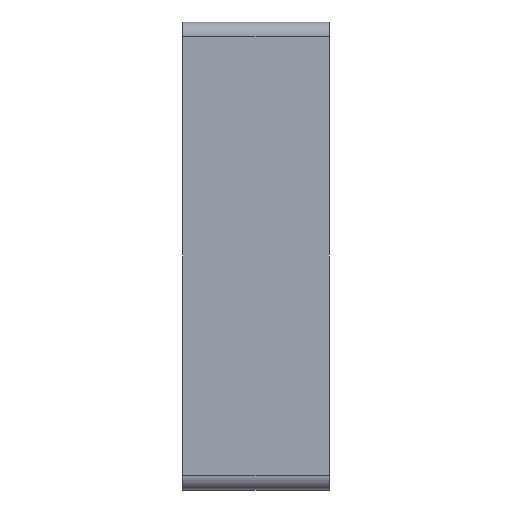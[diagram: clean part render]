
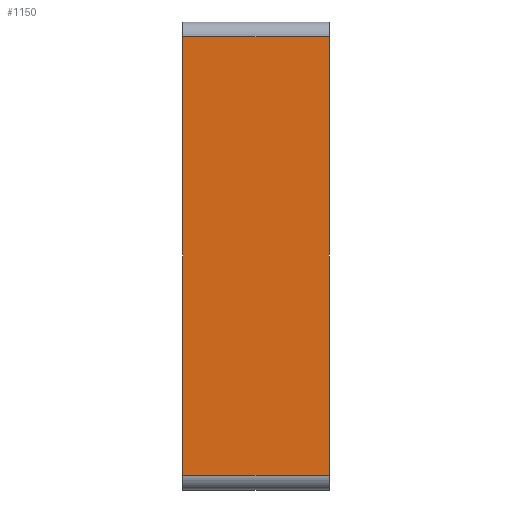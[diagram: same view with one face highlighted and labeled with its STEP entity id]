
A CAD part, left-side view. The second image highlights one B-rep face of the part: STEP entity #1150.
In plain terms, the highlighted planar face has unit normal (-1, 0, 0).
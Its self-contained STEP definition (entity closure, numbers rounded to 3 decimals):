
#32=DIRECTION('',(0.,0.,1.));
#33=VECTOR('',#32,30.);
#34=CARTESIAN_POINT('',(-9.25,0.,-8.5));
#35=LINE('',#34,#33);
#254=DIRECTION('',(0.,0.,1.));
#255=VECTOR('',#254,30.);
#256=CARTESIAN_POINT('',(-9.25,10.,-8.5));
#257=LINE('',#256,#255);
#373=DIRECTION('',(0.,1.,0.));
#374=VECTOR('',#373,10.);
#375=CARTESIAN_POINT('',(-9.25,0.,21.5));
#376=LINE('',#375,#374);
#377=DIRECTION('',(0.,1.,0.));
#378=VECTOR('',#377,10.);
#379=CARTESIAN_POINT('',(-9.25,0.,-8.5));
#380=LINE('',#379,#378);
#593=CARTESIAN_POINT('',(-9.25,0.,-8.5));
#594=CARTESIAN_POINT('',(-9.25,0.,21.5));
#595=VERTEX_POINT('',#593);
#596=VERTEX_POINT('',#594);
#605=CARTESIAN_POINT('',(-9.25,10.,-8.5));
#606=CARTESIAN_POINT('',(-9.25,10.,21.5));
#607=VERTEX_POINT('',#605);
#608=VERTEX_POINT('',#606);
#1138=CARTESIAN_POINT('',(-9.25,0.,-8.5));
#1139=DIRECTION('',(-1.,0.,0.));
#1140=DIRECTION('',(0.,0.,1.));
#1141=AXIS2_PLACEMENT_3D('',#1138,#1139,#1140);
#1142=PLANE('',#1141);
#1143=ORIENTED_EDGE('',*,*,#796,.F.);
#1145=ORIENTED_EDGE('',*,*,#1144,.T.);
#1146=ORIENTED_EDGE('',*,*,#1051,.T.);
#1147=ORIENTED_EDGE('',*,*,#1131,.F.);
#1148=EDGE_LOOP('',(#1143,#1145,#1146,#1147));
#1149=FACE_OUTER_BOUND('',#1148,.F.);
#1150=ADVANCED_FACE('',(#1149),#1142,.T.);
#796=EDGE_CURVE('',#595,#596,#35,.T.);
#1051=EDGE_CURVE('',#607,#608,#257,.T.);
#1131=EDGE_CURVE('',#596,#608,#376,.T.);
#1144=EDGE_CURVE('',#595,#607,#380,.T.);
